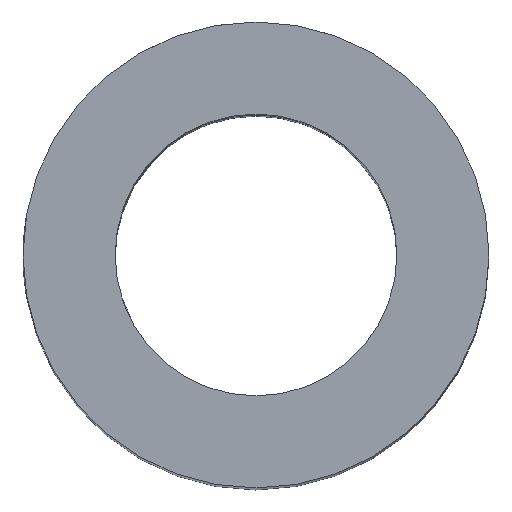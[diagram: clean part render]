
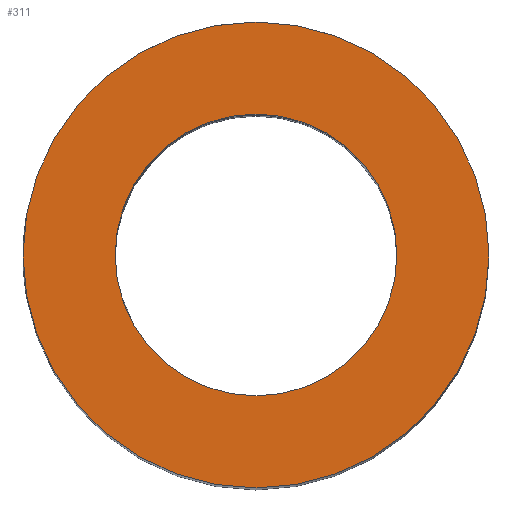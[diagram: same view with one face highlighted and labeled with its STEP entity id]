
A CAD part, top view. The second image highlights one B-rep face of the part: STEP entity #311.
In plain terms, the highlighted planar face has unit normal (0, 0, 1).
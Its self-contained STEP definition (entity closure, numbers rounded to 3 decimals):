
#176=CARTESIAN_POINT('Vertex',(4.8,0.,20.)) ;
#179=CARTESIAN_POINT('Axis2P3D Location',(0.,0.,20.)) ;
#183=CARTESIAN_POINT('Vertex',(-4.8,0.,20.)) ;
#263=CARTESIAN_POINT('Axis2P3D Location',(0.,0.,20.)) ;
#284=CARTESIAN_POINT('Axis2P3D Location',(0.,0.,20.)) ;
#289=CARTESIAN_POINT('Axis2P3D Location',(0.,0.,20.)) ;
#293=CARTESIAN_POINT('Vertex',(7.938,0.,20.)) ;
#295=CARTESIAN_POINT('Vertex',(-7.938,0.,20.)) ;
#298=CARTESIAN_POINT('Axis2P3D Location',(0.,0.,20.)) ;
#180=DIRECTION('Axis2P3D Direction',(0.,0.,1.)) ;
#264=DIRECTION('Axis2P3D Direction',(0.,0.,1.)) ;
#285=DIRECTION('Axis2P3D Direction',(0.,0.,1.)) ;
#286=DIRECTION('Axis2P3D XDirection',(1.,0.,0.)) ;
#290=DIRECTION('Axis2P3D Direction',(0.,0.,1.)) ;
#299=DIRECTION('Axis2P3D Direction',(0.,0.,1.)) ;
#181=AXIS2_PLACEMENT_3D('Circle Axis2P3D',#179,#180,$) ;
#265=AXIS2_PLACEMENT_3D('Circle Axis2P3D',#263,#264,$) ;
#287=AXIS2_PLACEMENT_3D('Plane Axis2P3D',#284,#285,#286) ;
#291=AXIS2_PLACEMENT_3D('Circle Axis2P3D',#289,#290,$) ;
#300=AXIS2_PLACEMENT_3D('Circle Axis2P3D',#298,#299,$) ;
#182=CIRCLE('generated circle',#181,4.8) ;
#266=CIRCLE('generated circle',#265,4.8) ;
#292=CIRCLE('generated circle',#291,7.938) ;
#301=CIRCLE('generated circle',#300,7.938) ;
#288=PLANE('',#287) ;
#310=FACE_BOUND('',#307,.T.) ;
#185=EDGE_CURVE('',#177,#184,#182,.T.) ;
#267=EDGE_CURVE('',#184,#177,#266,.T.) ;
#297=EDGE_CURVE('',#294,#296,#292,.T.) ;
#302=EDGE_CURVE('',#296,#294,#301,.T.) ;
#303=EDGE_LOOP('',(#304,#305)) ;
#307=EDGE_LOOP('',(#308,#309)) ;
#304=ORIENTED_EDGE('',*,*,#297,.T.) ;
#305=ORIENTED_EDGE('',*,*,#302,.T.) ;
#308=ORIENTED_EDGE('',*,*,#267,.F.) ;
#309=ORIENTED_EDGE('',*,*,#185,.F.) ;
#177=VERTEX_POINT('',#176) ;
#184=VERTEX_POINT('',#183) ;
#294=VERTEX_POINT('',#293) ;
#296=VERTEX_POINT('',#295) ;
#311=ADVANCED_FACE('PartBody',(#306,#310),#288,.T.) ;
#306=FACE_OUTER_BOUND('',#303,.T.) ;
